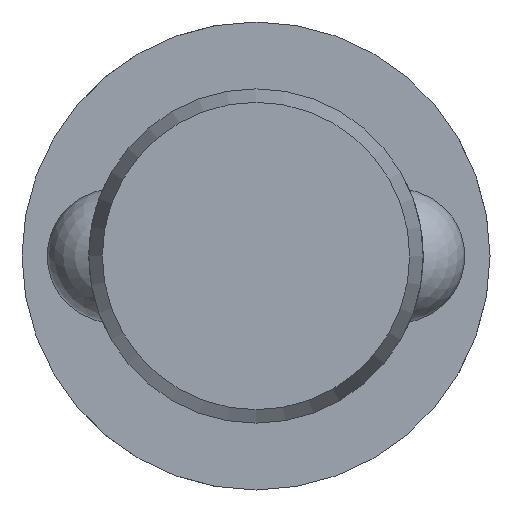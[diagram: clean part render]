
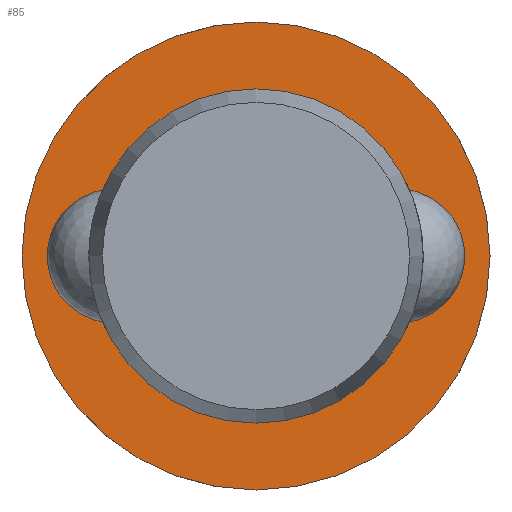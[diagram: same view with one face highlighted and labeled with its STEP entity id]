
A CAD part, left-side view. The second image highlights one B-rep face of the part: STEP entity #85.
In plain terms, the highlighted planar face has unit normal (-1, 0, 0).
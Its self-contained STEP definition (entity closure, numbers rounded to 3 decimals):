
#85 = ADVANCED_FACE( '', ( #131, #132 ), #133, .F. );
#131 = FACE_OUTER_BOUND( '', #204, .T. );
#132 = FACE_BOUND( '', #205, .T. );
#133 = PLANE( '', #206 );
#204 = EDGE_LOOP( '', ( #322 ) );
#205 = EDGE_LOOP( '', ( #323 ) );
#206 = AXIS2_PLACEMENT_3D( '', #324, #325, #326 );
#322 = ORIENTED_EDGE( '', *, *, #470, .F. );
#323 = ORIENTED_EDGE( '', *, *, #467, .T. );
#324 = CARTESIAN_POINT( '', ( 80.5, 10., 0. ) );
#325 = DIRECTION( '', ( 1., 0., 0. ) );
#326 = DIRECTION( '', ( 0., 1., 0. ) );
#467 = EDGE_CURVE( '', #541, #541, #542, .T. );
#470 = EDGE_CURVE( '', #547, #547, #548, .T. );
#541 = VERTEX_POINT( '', #777 );
#542 = CIRCLE( '', #778, 10. );
#547 = VERTEX_POINT( '', #909 );
#548 = CIRCLE( '', #910, 14. );
#777 = CARTESIAN_POINT( '', ( 80.5, 10., 0. ) );
#778 = AXIS2_PLACEMENT_3D( '', #989, #990, #991 );
#909 = CARTESIAN_POINT( '', ( 80.5, 14., 0. ) );
#910 = AXIS2_PLACEMENT_3D( '', #992, #993, #994 );
#989 = CARTESIAN_POINT( '', ( 80.5, 0., 0. ) );
#990 = DIRECTION( '', ( 1., 0., 0. ) );
#991 = DIRECTION( '', ( 0., 1., 0. ) );
#992 = CARTESIAN_POINT( '', ( 80.5, 0., 0. ) );
#993 = DIRECTION( '', ( 1., 0., 0. ) );
#994 = DIRECTION( '', ( 0., 1., 0. ) );
